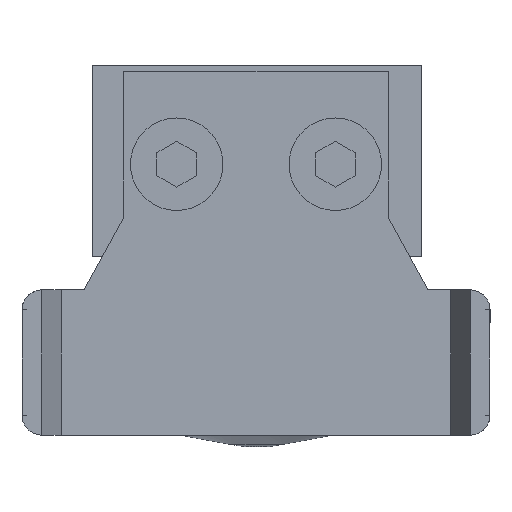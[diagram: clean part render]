
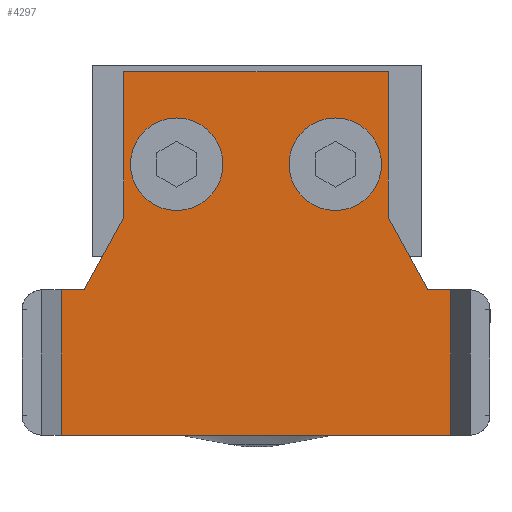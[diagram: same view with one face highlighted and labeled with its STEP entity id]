
A CAD part, left-side view. The second image highlights one B-rep face of the part: STEP entity #4297.
In plain terms, the highlighted planar face has unit normal (-1, 0, 0).
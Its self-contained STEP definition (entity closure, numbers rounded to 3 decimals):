
#5 = DIRECTION ( 'NONE',  ( 0., 0., 1. ) ) ;
#20 = CIRCLE ( 'NONE', #6971, 3.5 ) ;
#40 = FACE_BOUND ( 'NONE', #2536, .T. ) ;
#45 = EDGE_LOOP ( 'NONE', ( #1363, #2607, #1756, #5826, #2078, #7539, #4134, #227, #3782, #1970 ) ) ;
#72 = CARTESIAN_POINT ( 'NONE',  ( 4., 0., 0. ) ) ;
#84 = VECTOR ( 'NONE', #5, 1000. ) ;
#227 = ORIENTED_EDGE ( 'NONE', *, *, #4514, .T. ) ;
#229 = EDGE_CURVE ( 'NONE', #2686, #4164, #5912, .T. ) ;
#279 = CARTESIAN_POINT ( 'NONE',  ( 4., 9.5, -6. ) ) ;
#291 = DIRECTION ( 'NONE',  ( 0., 0., -1. ) ) ;
#324 = VERTEX_POINT ( 'NONE', #2312 ) ;
#426 = ORIENTED_EDGE ( 'NONE', *, *, #7226, .F. ) ;
#438 = VERTEX_POINT ( 'NONE', #4817 ) ;
#534 = CARTESIAN_POINT ( 'NONE',  ( 4., 9.5, -6. ) ) ;
#661 = LINE ( 'NONE', #2039, #4229 ) ;
#662 = CARTESIAN_POINT ( 'NONE',  ( 4., 0., 13. ) ) ;
#671 = LINE ( 'NONE', #7567, #2962 ) ;
#716 = CARTESIAN_POINT ( 'NONE',  ( 4., 9.5, 6. ) ) ;
#771 = CARTESIAN_POINT ( 'NONE',  ( 4., 0., 14.744 ) ) ;
#832 = AXIS2_PLACEMENT_3D ( 'NONE', #534, #7023, #4044 ) ;
#865 = CARTESIAN_POINT ( 'NONE',  ( 4., 0., -14.744 ) ) ;
#1001 = DIRECTION ( 'NONE',  ( 0., 1., 0. ) ) ;
#1003 = VECTOR ( 'NONE', #1001, 1000. ) ;
#1363 = ORIENTED_EDGE ( 'NONE', *, *, #4990, .T. ) ;
#1386 = LINE ( 'NONE', #4120, #6699 ) ;
#1556 = VECTOR ( 'NONE', #3758, 1000. ) ;
#1582 = VERTEX_POINT ( 'NONE', #6068 ) ;
#1756 = ORIENTED_EDGE ( 'NONE', *, *, #229, .F. ) ;
#1970 = ORIENTED_EDGE ( 'NONE', *, *, #5140, .F. ) ;
#2015 = DIRECTION ( 'NONE',  ( 0., -1., 0. ) ) ;
#2039 = CARTESIAN_POINT ( 'NONE',  ( 4., 5.5, -10. ) ) ;
#2078 = ORIENTED_EDGE ( 'NONE', *, *, #6244, .T. ) ;
#2119 = VECTOR ( 'NONE', #5627, 1000. ) ;
#2185 = CARTESIAN_POINT ( 'NONE',  ( 4., 0., -14.744 ) ) ;
#2312 = CARTESIAN_POINT ( 'NONE',  ( 4., -11., 14.744 ) ) ;
#2485 = DIRECTION ( 'NONE',  ( -1., 0., 0. ) ) ;
#2495 = EDGE_CURVE ( 'NONE', #7119, #3582, #7082, .T. ) ;
#2536 = EDGE_LOOP ( 'NONE', ( #426, #5297 ) ) ;
#2552 = CARTESIAN_POINT ( 'NONE',  ( 4., -11., -14.744 ) ) ;
#2607 = ORIENTED_EDGE ( 'NONE', *, *, #5091, .F. ) ;
#2686 = VERTEX_POINT ( 'NONE', #662 ) ;
#2723 = CARTESIAN_POINT ( 'NONE',  ( 4., 9.5, 2.5 ) ) ;
#2758 = VECTOR ( 'NONE', #291, 1000. ) ;
#2849 = CARTESIAN_POINT ( 'NONE',  ( 4., 16.5, 10. ) ) ;
#2910 = CARTESIAN_POINT ( 'NONE',  ( 4., -11., 20. ) ) ;
#2962 = VECTOR ( 'NONE', #6416, 1000. ) ;
#3005 = CARTESIAN_POINT ( 'NONE',  ( 4., 16.5, -10. ) ) ;
#3104 = ORIENTED_EDGE ( 'NONE', *, *, #3329, .F. ) ;
#3122 = LINE ( 'NONE', #2910, #3872 ) ;
#3170 = EDGE_CURVE ( 'NONE', #7210, #6557, #671, .T. ) ;
#3180 = CARTESIAN_POINT ( 'NONE',  ( 4., 16.5, -10. ) ) ;
#3224 = EDGE_CURVE ( 'NONE', #2686, #5379, #1386, .T. ) ;
#3329 = EDGE_CURVE ( 'NONE', #3582, #7119, #6692, .T. ) ;
#3582 = VERTEX_POINT ( 'NONE', #5270 ) ;
#3617 = DIRECTION ( 'NONE',  ( 0., 0., -1. ) ) ;
#3640 = DIRECTION ( 'NONE',  ( -1., 0., 0. ) ) ;
#3654 = AXIS2_PLACEMENT_3D ( 'NONE', #279, #6028, #5504 ) ;
#3685 = LINE ( 'NONE', #4312, #1556 ) ;
#3691 = CARTESIAN_POINT ( 'NONE',  ( 4., 9.5, 6. ) ) ;
#3758 = DIRECTION ( 'NONE',  ( 0., -1., 0. ) ) ;
#3782 = ORIENTED_EDGE ( 'NONE', *, *, #3170, .F. ) ;
#3872 = VECTOR ( 'NONE', #5974, 1000. ) ;
#3897 = EDGE_LOOP ( 'NONE', ( #5144, #3104 ) ) ;
#4044 = DIRECTION ( 'NONE',  ( 0., 0., -1. ) ) ;
#4091 = DIRECTION ( 'NONE',  ( 0., 0., -1. ) ) ;
#4120 = CARTESIAN_POINT ( 'NONE',  ( 4., 5.5, 10. ) ) ;
#4134 = ORIENTED_EDGE ( 'NONE', *, *, #6687, .T. ) ;
#4164 = VERTEX_POINT ( 'NONE', #771 ) ;
#4229 = VECTOR ( 'NONE', #2015, 1000. ) ;
#4275 = CARTESIAN_POINT ( 'NONE',  ( 4., 5.5, 10. ) ) ;
#4297 = ADVANCED_FACE ( 'NONE', ( #6502, #5155, #40 ), #6991, .F. ) ;
#4312 = CARTESIAN_POINT ( 'NONE',  ( 4., 0., 14.744 ) ) ;
#4407 = LINE ( 'NONE', #3180, #2758 ) ;
#4514 = EDGE_CURVE ( 'NONE', #438, #6557, #6418, .T. ) ;
#4681 = CIRCLE ( 'NONE', #7563, 3.5 ) ;
#4707 = DIRECTION ( 'NONE',  ( 0., 0.878, -0.479 ) ) ;
#4817 = CARTESIAN_POINT ( 'NONE',  ( 4., 5.5, -10. ) ) ;
#4862 = LINE ( 'NONE', #2185, #2119 ) ;
#4876 = VECTOR ( 'NONE', #6168, 1000. ) ;
#4888 = DIRECTION ( 'NONE',  ( 0., 0., -1. ) ) ;
#4947 = AXIS2_PLACEMENT_3D ( 'NONE', #5760, #5261, #4091 ) ;
#4980 = VERTEX_POINT ( 'NONE', #3005 ) ;
#4990 = EDGE_CURVE ( 'NONE', #5415, #324, #3122, .T. ) ;
#5091 = EDGE_CURVE ( 'NONE', #4164, #324, #3685, .T. ) ;
#5140 = EDGE_CURVE ( 'NONE', #5415, #7210, #4862, .T. ) ;
#5144 = ORIENTED_EDGE ( 'NONE', *, *, #2495, .F. ) ;
#5155 = FACE_BOUND ( 'NONE', #3897, .T. ) ;
#5192 = VERTEX_POINT ( 'NONE', #2723 ) ;
#5230 = LINE ( 'NONE', #2849, #1003 ) ;
#5261 = DIRECTION ( 'NONE',  ( 1., 0., 0. ) ) ;
#5270 = CARTESIAN_POINT ( 'NONE',  ( 4., 9.5, -2.5 ) ) ;
#5297 = ORIENTED_EDGE ( 'NONE', *, *, #6448, .F. ) ;
#5379 = VERTEX_POINT ( 'NONE', #4275 ) ;
#5415 = VERTEX_POINT ( 'NONE', #2552 ) ;
#5504 = DIRECTION ( 'NONE',  ( 0., 0., -1. ) ) ;
#5627 = DIRECTION ( 'NONE',  ( 0., 1., 0. ) ) ;
#5760 = CARTESIAN_POINT ( 'NONE',  ( 4., 0., 0. ) ) ;
#5826 = ORIENTED_EDGE ( 'NONE', *, *, #3224, .T. ) ;
#5912 = LINE ( 'NONE', #72, #84 ) ;
#5974 = DIRECTION ( 'NONE',  ( 0., 0., 1. ) ) ;
#6009 = CARTESIAN_POINT ( 'NONE',  ( 4., 0., -13. ) ) ;
#6028 = DIRECTION ( 'NONE',  ( -1., 0., 0. ) ) ;
#6068 = CARTESIAN_POINT ( 'NONE',  ( 4., 16.5, 10. ) ) ;
#6168 = DIRECTION ( 'NONE',  ( 0., -0.878, -0.479 ) ) ;
#6193 = CARTESIAN_POINT ( 'NONE',  ( 4., 0., -13. ) ) ;
#6244 = EDGE_CURVE ( 'NONE', #5379, #1582, #5230, .T. ) ;
#6416 = DIRECTION ( 'NONE',  ( 0., 0., 1. ) ) ;
#6418 = LINE ( 'NONE', #6193, #4876 ) ;
#6442 = CARTESIAN_POINT ( 'NONE',  ( 4., 9.5, 9.5 ) ) ;
#6448 = EDGE_CURVE ( 'NONE', #6869, #5192, #4681, .T. ) ;
#6502 = FACE_OUTER_BOUND ( 'NONE', #45, .T. ) ;
#6557 = VERTEX_POINT ( 'NONE', #6009 ) ;
#6687 = EDGE_CURVE ( 'NONE', #4980, #438, #661, .T. ) ;
#6692 = CIRCLE ( 'NONE', #3654, 3.5 ) ;
#6699 = VECTOR ( 'NONE', #4707, 1000. ) ;
#6869 = VERTEX_POINT ( 'NONE', #6442 ) ;
#6971 = AXIS2_PLACEMENT_3D ( 'NONE', #716, #2485, #4888 ) ;
#6991 = PLANE ( 'NONE',  #4947 ) ;
#7023 = DIRECTION ( 'NONE',  ( -1., 0., 0. ) ) ;
#7048 = EDGE_CURVE ( 'NONE', #1582, #4980, #4407, .T. ) ;
#7082 = CIRCLE ( 'NONE', #832, 3.5 ) ;
#7119 = VERTEX_POINT ( 'NONE', #7211 ) ;
#7210 = VERTEX_POINT ( 'NONE', #865 ) ;
#7211 = CARTESIAN_POINT ( 'NONE',  ( 4., 9.5, -9.5 ) ) ;
#7226 = EDGE_CURVE ( 'NONE', #5192, #6869, #20, .T. ) ;
#7539 = ORIENTED_EDGE ( 'NONE', *, *, #7048, .T. ) ;
#7563 = AXIS2_PLACEMENT_3D ( 'NONE', #3691, #3640, #3617 ) ;
#7567 = CARTESIAN_POINT ( 'NONE',  ( 4., 0., 0. ) ) ;
